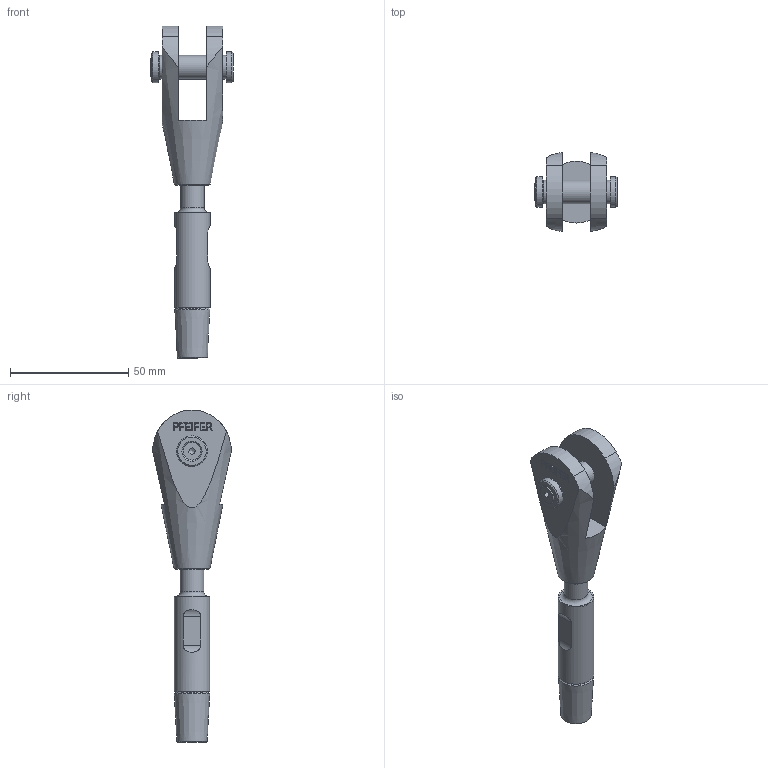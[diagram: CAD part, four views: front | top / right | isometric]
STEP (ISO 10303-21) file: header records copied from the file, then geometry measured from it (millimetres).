
FILE_DESCRIPTION(/* description */ (''),/* implementation_level */ '2;1');
FILE_NAME(/* name */ 'G:\Engineering\700 CAD\Internet-PX-1-step-igs-dxf\520-GAK-ADA-Arbeitsdateien\520-010-GAK-ADA.stp',/* time_stamp */ '2020-07-03T13:03:13+02:00',/* author */ ('schwarz'),/* organization */ (''),/* preprocessor_version */ 'ST-DEVELOPER v16.1',/* originating_system */ 'Autodesk Inventor 2016',/* authorisation */ '');
FILE_SCHEMA (('AUTOMOTIVE_DESIGN { 1 0 10303 214 3 1 1 }'));
Length unit declared in the file: centimetre
Products named in the file (1): 520-010-GAK-ADA-Kunde
Bounding box: 34.78 x 33.25 x 140.44 mm (x, y, z)
Volume: 34323.6 mm3; surface area: 12478.3 mm2
Topology: 1 solids, 2 shells, 197 faces, 505 edges, 335 vertices
Faces by surface type: plane 140, cylinder 22, bspline 21, cone 13, torus 1
Full cylindrical faces by diameter (mm): 3.242 x1, 4 x1, 4.5 x1, 7.53 x1, 10 x4, 10.5 x1, 13 x2, 15 x1
Entity records: 6136 total; most frequent: CARTESIAN_POINT 1409, ORIENTED_EDGE 942, DIRECTION 808, EDGE_CURVE 471, LINE 356, VECTOR 356, VERTEX_POINT 327, EDGE_LOOP 248
